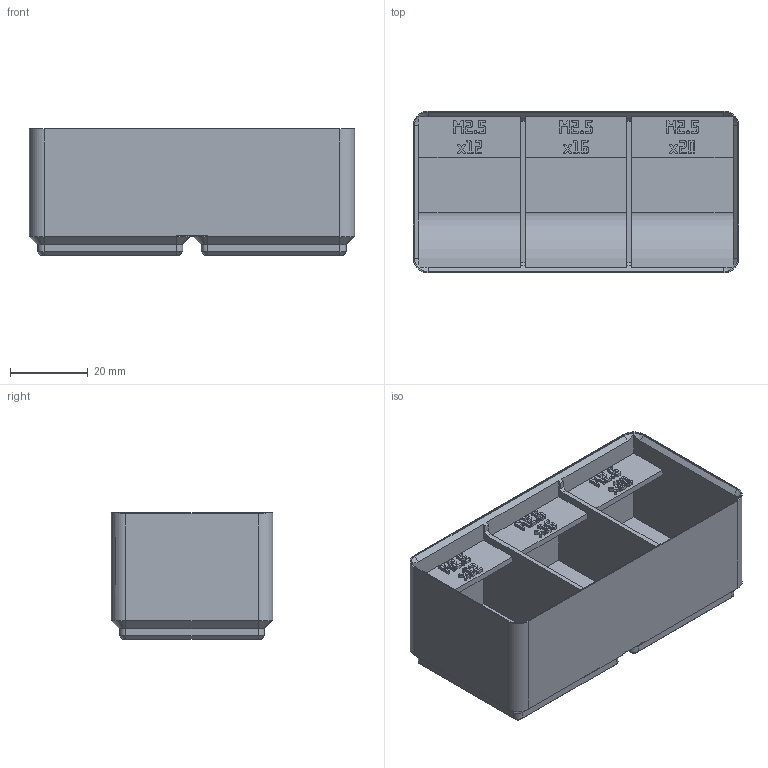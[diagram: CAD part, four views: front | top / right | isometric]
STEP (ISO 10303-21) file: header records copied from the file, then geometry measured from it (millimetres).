
FILE_DESCRIPTION(('Open CASCADE Model'),'2;1');
FILE_NAME('Open CASCADE Shape Model','2026-11-16T13:39:47',('Author'),( 'Open CASCADE'),'Open CASCADE STEP processor 8.0','build123d', 'Unknown');
FILE_SCHEMA(('AUTOMOTIVE_DESIGN { 1 0 10303 214 1 1 1 1 }'));
Products named in the file (1): SOLID
Bounding box: 83.5 x 41.5 x 32.4 mm (x, y, z)
Volume: 46156.6 mm3; surface area: 23569.5 mm2
Topology: 1 solids, 1 shells, 2197 faces, 6451 edges, 4282 vertices
Faces by surface type: plane 2154, cylinder 23, cone 20
Entity records: 150918 total; most frequent: CARTESIAN_POINT 30422, DIRECTION 19339, LINE 14788, VECTOR 14788, ORIENTED_EDGE 12902, PCURVE 12902, DEFINITIONAL_REPRESENTATION 12902, EDGE_CURVE 6451
